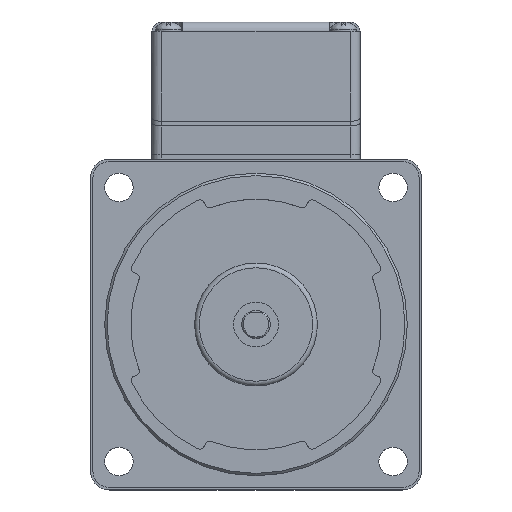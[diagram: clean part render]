
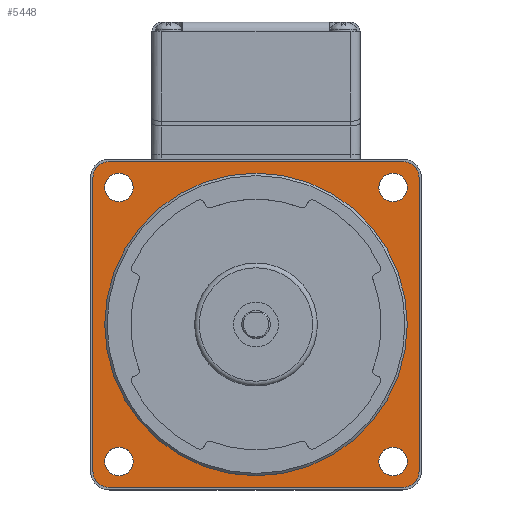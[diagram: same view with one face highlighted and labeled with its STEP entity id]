
A CAD part, top view. The second image highlights one B-rep face of the part: STEP entity #5448.
In plain terms, the highlighted planar face has unit normal (0, 0, 1).
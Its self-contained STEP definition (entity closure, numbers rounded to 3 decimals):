
#26 = ORIENTED_EDGE ( 'NONE', *, *, #5261, .T. ) ;
#89 = DIRECTION ( 'NONE',  ( 0., 1., 0. ) ) ;
#168 = EDGE_CURVE ( 'NONE', #3667, #6928, #4385, .T. ) ;
#206 = VECTOR ( 'NONE', #89, 1000. ) ;
#222 = VERTEX_POINT ( 'NONE', #2145 ) ;
#264 = CARTESIAN_POINT ( 'NONE',  ( -34.5, 31., 0. ) ) ;
#270 = AXIS2_PLACEMENT_3D ( 'NONE', #996, #417, #1486 ) ;
#417 = DIRECTION ( 'NONE',  ( 0., 0., 1. ) ) ;
#486 = CARTESIAN_POINT ( 'NONE',  ( 28.991, -28.991, 0. ) ) ;
#525 = CARTESIAN_POINT ( 'NONE',  ( 32., 0., 0. ) ) ;
#600 = EDGE_CURVE ( 'NONE', #2933, #3667, #2999, .T. ) ;
#607 = CARTESIAN_POINT ( 'NONE',  ( -31., 31., 0. ) ) ;
#827 = ORIENTED_EDGE ( 'NONE', *, *, #1039, .F. ) ;
#869 = VERTEX_POINT ( 'NONE', #3860 ) ;
#897 = DIRECTION ( 'NONE',  ( 0., 1., 0. ) ) ;
#996 = CARTESIAN_POINT ( 'NONE',  ( 31., 31., 0. ) ) ;
#1039 = EDGE_CURVE ( 'NONE', #869, #869, #4846, .T. ) ;
#1053 = VECTOR ( 'NONE', #1367, 1000. ) ;
#1088 = EDGE_CURVE ( 'NONE', #3246, #3246, #4618, .T. ) ;
#1319 = EDGE_LOOP ( 'NONE', ( #1361 ) ) ;
#1321 = CARTESIAN_POINT ( 'NONE',  ( 34.5, -31., 0. ) ) ;
#1361 = ORIENTED_EDGE ( 'NONE', *, *, #1088, .F. ) ;
#1367 = DIRECTION ( 'NONE',  ( 1., 0., 0. ) ) ;
#1375 = AXIS2_PLACEMENT_3D ( 'NONE', #3918, #6333, #3227 ) ;
#1486 = DIRECTION ( 'NONE',  ( 1., 0., 0. ) ) ;
#1515 = FACE_BOUND ( 'NONE', #3203, .T. ) ;
#1554 = CARTESIAN_POINT ( 'NONE',  ( 31., -34.5, 0. ) ) ;
#1687 = CIRCLE ( 'NONE', #6028, 3. ) ;
#1766 = AXIS2_PLACEMENT_3D ( 'NONE', #3492, #2254, #5751 ) ;
#1817 = VERTEX_POINT ( 'NONE', #3546 ) ;
#1873 = LINE ( 'NONE', #1321, #206 ) ;
#2094 = VERTEX_POINT ( 'NONE', #1554 ) ;
#2108 = FACE_OUTER_BOUND ( 'NONE', #7565, .T. ) ;
#2128 = DIRECTION ( 'NONE',  ( 0., -1., 0. ) ) ;
#2145 = CARTESIAN_POINT ( 'NONE',  ( -31., -34.5, 0. ) ) ;
#2189 = DIRECTION ( 'NONE',  ( 0., 0., 1. ) ) ;
#2209 = LINE ( 'NONE', #264, #3999 ) ;
#2254 = DIRECTION ( 'NONE',  ( 0., 0., 1. ) ) ;
#2274 = CIRCLE ( 'NONE', #5120, 3.5 ) ;
#2353 = ORIENTED_EDGE ( 'NONE', *, *, #4035, .T. ) ;
#2380 = DIRECTION ( 'NONE',  ( 0., 0., 1. ) ) ;
#2393 = EDGE_LOOP ( 'NONE', ( #5106 ) ) ;
#2593 = LINE ( 'NONE', #4249, #1053 ) ;
#2722 = ORIENTED_EDGE ( 'NONE', *, *, #5420, .F. ) ;
#2769 = FACE_BOUND ( 'NONE', #2826, .T. ) ;
#2826 = EDGE_LOOP ( 'NONE', ( #6599 ) ) ;
#2861 = CARTESIAN_POINT ( 'NONE',  ( 28.991, 31.991, 0. ) ) ;
#2933 = VERTEX_POINT ( 'NONE', #3126 ) ;
#2938 = VERTEX_POINT ( 'NONE', #525 ) ;
#2981 = DIRECTION ( 'NONE',  ( 0., 0., 1. ) ) ;
#2999 = CIRCLE ( 'NONE', #270, 3.5 ) ;
#3029 = ORIENTED_EDGE ( 'NONE', *, *, #7350, .T. ) ;
#3039 = CIRCLE ( 'NONE', #4652, 3.5 ) ;
#3126 = CARTESIAN_POINT ( 'NONE',  ( 34.5, 31., 0. ) ) ;
#3203 = EDGE_LOOP ( 'NONE', ( #2722 ) ) ;
#3218 = CARTESIAN_POINT ( 'NONE',  ( 31., 34.5, 0. ) ) ;
#3227 = DIRECTION ( 'NONE',  ( 1., 0., 0. ) ) ;
#3246 = VERTEX_POINT ( 'NONE', #3787 ) ;
#3310 = CARTESIAN_POINT ( 'NONE',  ( 0., 0., 0. ) ) ;
#3388 = DIRECTION ( 'NONE',  ( 0., 0., 1. ) ) ;
#3407 = DIRECTION ( 'NONE',  ( 0., 0., 1. ) ) ;
#3492 = CARTESIAN_POINT ( 'NONE',  ( -31., -31., 0. ) ) ;
#3546 = CARTESIAN_POINT ( 'NONE',  ( 34.5, -31., 0. ) ) ;
#3652 = CARTESIAN_POINT ( 'NONE',  ( -31., 34.5, 0. ) ) ;
#3667 = VERTEX_POINT ( 'NONE', #3218 ) ;
#3753 = AXIS2_PLACEMENT_3D ( 'NONE', #7099, #4686, #7571 ) ;
#3783 = EDGE_CURVE ( 'NONE', #2094, #1817, #3039, .T. ) ;
#3787 = CARTESIAN_POINT ( 'NONE',  ( 31.991, -28.991, 0. ) ) ;
#3860 = CARTESIAN_POINT ( 'NONE',  ( -31.991, 28.991, 0. ) ) ;
#3861 = VERTEX_POINT ( 'NONE', #7202 ) ;
#3887 = DIRECTION ( 'NONE',  ( 1., 0., 0. ) ) ;
#3892 = VERTEX_POINT ( 'NONE', #7060 ) ;
#3918 = CARTESIAN_POINT ( 'NONE',  ( 0., 0., 0. ) ) ;
#3960 = PLANE ( 'NONE',  #5728 ) ;
#3999 = VECTOR ( 'NONE', #2128, 1000. ) ;
#4035 = EDGE_CURVE ( 'NONE', #222, #2094, #2593, .T. ) ;
#4057 = CARTESIAN_POINT ( 'NONE',  ( -28.991, -31.991, 0. ) ) ;
#4113 = AXIS2_PLACEMENT_3D ( 'NONE', #486, #4673, #6465 ) ;
#4249 = CARTESIAN_POINT ( 'NONE',  ( -31., -34.5, 0. ) ) ;
#4275 = ORIENTED_EDGE ( 'NONE', *, *, #7085, .T. ) ;
#4385 = LINE ( 'NONE', #6256, #5838 ) ;
#4476 = ORIENTED_EDGE ( 'NONE', *, *, #7507, .T. ) ;
#4479 = AXIS2_PLACEMENT_3D ( 'NONE', #7591, #2380, #5292 ) ;
#4607 = CARTESIAN_POINT ( 'NONE',  ( 31., -31., 0. ) ) ;
#4618 = CIRCLE ( 'NONE', #4113, 3. ) ;
#4652 = AXIS2_PLACEMENT_3D ( 'NONE', #4607, #3407, #5781 ) ;
#4673 = DIRECTION ( 'NONE',  ( 0., 0., 1. ) ) ;
#4686 = DIRECTION ( 'NONE',  ( 0., 0., 1. ) ) ;
#4730 = CIRCLE ( 'NONE', #1375, 32. ) ;
#4846 = CIRCLE ( 'NONE', #4479, 3. ) ;
#4858 = CIRCLE ( 'NONE', #1766, 3.5 ) ;
#4907 = ORIENTED_EDGE ( 'NONE', *, *, #3783, .T. ) ;
#4993 = EDGE_LOOP ( 'NONE', ( #827 ) ) ;
#5052 = FACE_BOUND ( 'NONE', #2393, .T. ) ;
#5106 = ORIENTED_EDGE ( 'NONE', *, *, #7469, .F. ) ;
#5120 = AXIS2_PLACEMENT_3D ( 'NONE', #607, #2981, #6481 ) ;
#5261 = EDGE_CURVE ( 'NONE', #1817, #2933, #1873, .T. ) ;
#5292 = DIRECTION ( 'NONE',  ( -1., 0., 0. ) ) ;
#5308 = ORIENTED_EDGE ( 'NONE', *, *, #168, .T. ) ;
#5420 = EDGE_CURVE ( 'NONE', #7090, #7090, #1687, .T. ) ;
#5448 = ADVANCED_FACE ( 'NONE', ( #2769, #5052, #7429, #1515, #6843, #2108 ), #3960, .T. ) ;
#5728 = AXIS2_PLACEMENT_3D ( 'NONE', #3310, #2189, #3887 ) ;
#5751 = DIRECTION ( 'NONE',  ( 1., 0., 0. ) ) ;
#5781 = DIRECTION ( 'NONE',  ( 1., 0., 0. ) ) ;
#5838 = VECTOR ( 'NONE', #6763, 1000. ) ;
#5882 = EDGE_CURVE ( 'NONE', #2938, #2938, #4730, .T. ) ;
#6028 = AXIS2_PLACEMENT_3D ( 'NONE', #7393, #3388, #897 ) ;
#6256 = CARTESIAN_POINT ( 'NONE',  ( 31., 34.5, 0. ) ) ;
#6333 = DIRECTION ( 'NONE',  ( 0., 0., 1. ) ) ;
#6465 = DIRECTION ( 'NONE',  ( 1., 0., 0. ) ) ;
#6481 = DIRECTION ( 'NONE',  ( 1., 0., 0. ) ) ;
#6599 = ORIENTED_EDGE ( 'NONE', *, *, #5882, .F. ) ;
#6693 = ORIENTED_EDGE ( 'NONE', *, *, #600, .T. ) ;
#6763 = DIRECTION ( 'NONE',  ( -1., 0., 0. ) ) ;
#6843 = FACE_BOUND ( 'NONE', #1319, .T. ) ;
#6928 = VERTEX_POINT ( 'NONE', #3652 ) ;
#7060 = CARTESIAN_POINT ( 'NONE',  ( -34.5, -31., 0. ) ) ;
#7085 = EDGE_CURVE ( 'NONE', #3892, #222, #4858, .T. ) ;
#7090 = VERTEX_POINT ( 'NONE', #2861 ) ;
#7099 = CARTESIAN_POINT ( 'NONE',  ( -28.991, -28.991, 0. ) ) ;
#7202 = CARTESIAN_POINT ( 'NONE',  ( -34.5, 31., 0. ) ) ;
#7350 = EDGE_CURVE ( 'NONE', #3861, #3892, #2209, .T. ) ;
#7358 = CIRCLE ( 'NONE', #3753, 3. ) ;
#7393 = CARTESIAN_POINT ( 'NONE',  ( 28.991, 28.991, 0. ) ) ;
#7429 = FACE_BOUND ( 'NONE', #4993, .T. ) ;
#7469 = EDGE_CURVE ( 'NONE', #7675, #7675, #7358, .T. ) ;
#7507 = EDGE_CURVE ( 'NONE', #6928, #3861, #2274, .T. ) ;
#7565 = EDGE_LOOP ( 'NONE', ( #26, #6693, #5308, #4476, #3029, #4275, #2353, #4907 ) ) ;
#7571 = DIRECTION ( 'NONE',  ( 0., -1., 0. ) ) ;
#7591 = CARTESIAN_POINT ( 'NONE',  ( -28.991, 28.991, 0. ) ) ;
#7675 = VERTEX_POINT ( 'NONE', #4057 ) ;
